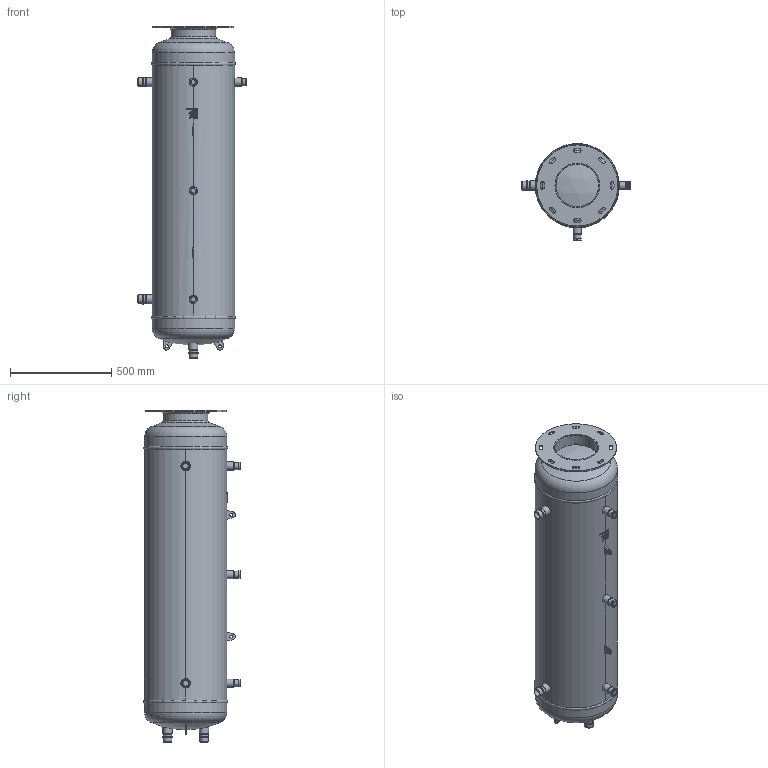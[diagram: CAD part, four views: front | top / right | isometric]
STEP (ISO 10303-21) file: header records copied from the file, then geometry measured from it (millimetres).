
FILE_DESCRIPTION(/* description */ (''),/* implementation_level */ '2;1');
FILE_NAME(/* name */ 'P:\SGS\SGS-165-PS90-V1\SGS-165-PS90-V1.stp',/* time_stamp */ '2019-08-21T13:16:10+02:00',/* author */ ('neufeld'),/* organization */ (''),/* preprocessor_version */ 'ST-DEVELOPER v17',/* originating_system */ 'Autodesk Inventor 2019',/* authorisation */ '');
FILE_SCHEMA (('AUTOMOTIVE_DESIGN { 1 0 10303 214 3 1 1 }'));
Length unit declared in the file: millimetre
Products named in the file (1): SGS-165-PS90-V1_AG-Kunde
Bounding box: 533.4 x 475.77 x 1635.85 mm (x, y, z)
Volume: 192748508 mm3; surface area: 2464207.4 mm2
Topology: 3 solids, 3 shells, 1413 faces, 3887 edges, 2635 vertices
Faces by surface type: plane 672, bspline 477, cylinder 219, cone 34, torus 6, sphere 5
Full cylindrical faces by diameter (mm): 15 x4, 23.1 x1, 24 x3, 25.2 x1, 26.9 x1, 28.7 x2, 29 x4, 32.1 x1, 35 x4, 35.2 x4, 40 x4, 42.4 x8, 45 x4, 47.6 x4, 210.1 x1, 219.1 x2, 220.5 x1, 400 x1, 406.4 x2
Entity records: 62506 total; most frequent: CARTESIAN_POINT 28521, ORIENTED_EDGE 7724, DIRECTION 5837, EDGE_CURVE 3862, VERTEX_POINT 2587, AXIS2_PLACEMENT_3D 2058, LINE 1721, VECTOR 1721
